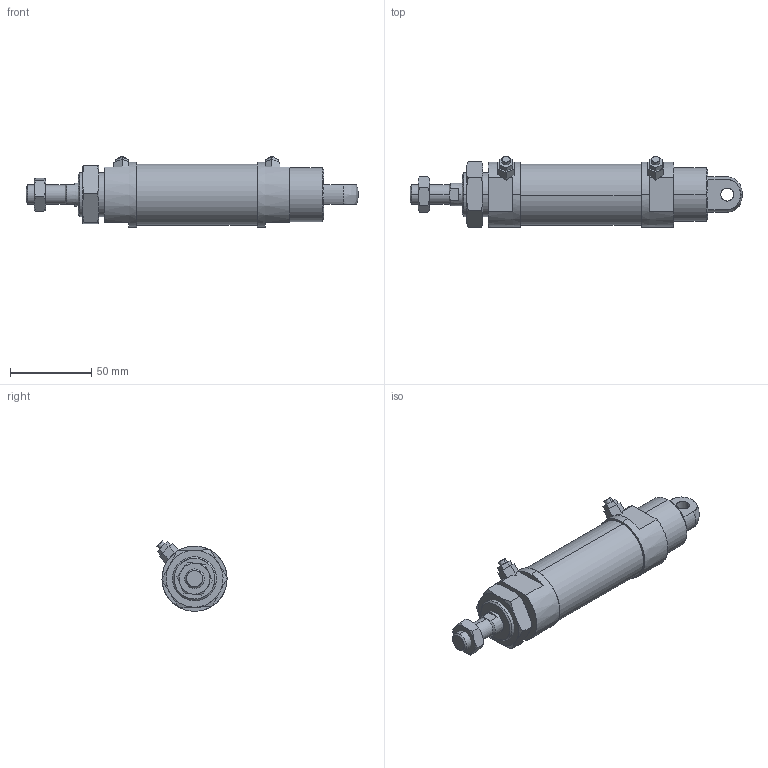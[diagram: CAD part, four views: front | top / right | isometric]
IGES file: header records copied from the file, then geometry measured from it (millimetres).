
Start section: SolidWorks IGES file using analytic representation for surfaces
Global section: file name: C:\Users\Toshiba\Desktop\JG2-32-25-C.IGS; native system: SolidWorks 2014; preprocessor: SolidWorks 2014; author: Toshiba; date: 160419.084952; units: millimetre
Bounding box: 204 x 43.53 x 43.33 mm (x, y, z)
Surface area: 32932 mm2 (no closed solid volume)
Topology: 0 solids, 0 shells, 138 faces, 2222 edges, 2218 vertices
Faces by surface type: bspline 96, revolution 42
